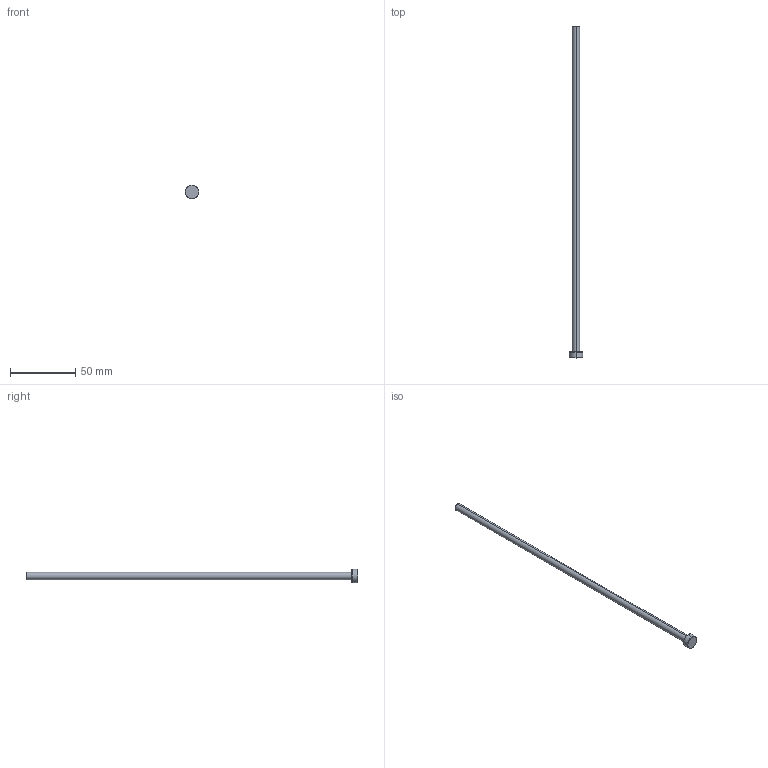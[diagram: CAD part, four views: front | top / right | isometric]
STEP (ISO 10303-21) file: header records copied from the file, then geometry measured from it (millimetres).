
FILE_DESCRIPTION (( 'STEP AP203' ), '1' );
FILE_NAME ('EPSS219L10.step', '2026-05-01T22:26:20', ( '' ), ( '' ), 'SwSTEP 2.0', 'SolidWorks 2023', '' );
FILE_SCHEMA (( 'CONFIG_CONTROL_DESIGN' ));
Length unit declared in the file: inch
Products named in the file (1): EPSS219L10
Bounding box: 10.31 x 254 x 10.31 mm (x, y, z)
Volume: 6436.4 mm3; surface area: 4657.2 mm2
Topology: 1 solids, 1 shells, 13 faces, 24 edges, 14 vertices
Faces by surface type: cone 4, cylinder 4, plane 3, torus 2
Entity records: 405 total; most frequent: DIRECTION 68, CARTESIAN_POINT 52, ORIENTED_EDGE 48, AXIS2_PLACEMENT_3D 30, EDGE_CURVE 24, CIRCLE 16, EDGE_LOOP 14, VERTEX_POINT 14
